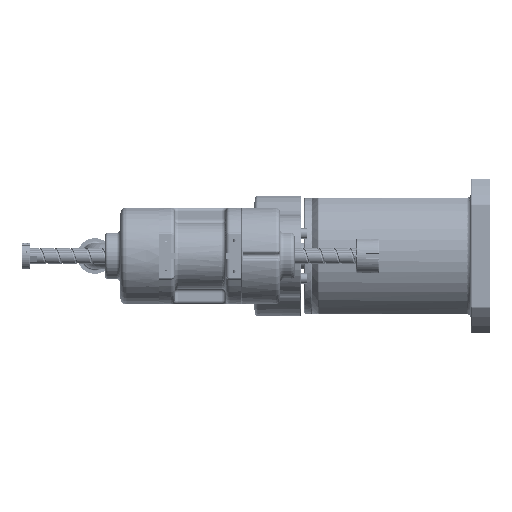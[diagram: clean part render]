
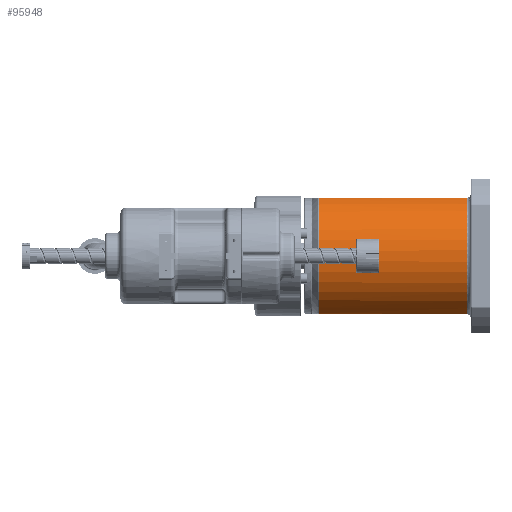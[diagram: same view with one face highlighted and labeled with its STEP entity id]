
A CAD part, left-side view. The second image highlights one B-rep face of the part: STEP entity #95948.
In plain terms, the highlighted cylindrical face has radius 83 mm (diameter 166 mm), a partial arc.
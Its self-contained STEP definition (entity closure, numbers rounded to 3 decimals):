
#2366 = ORIENTED_EDGE ( 'NONE', *, *, #98460, .T. ) ;
#4296 = DIRECTION ( 'NONE',  ( 0., -1., 0. ) ) ;
#4833 = CARTESIAN_POINT ( 'NONE',  ( -37.152, 221.15, -74.221 ) ) ;
#5636 = CARTESIAN_POINT ( 'NONE',  ( -36.048, 30., 74.763 ) ) ;
#9024 = CARTESIAN_POINT ( 'NONE',  ( -36.048, 220.78, 74.763 ) ) ;
#10116 = ORIENTED_EDGE ( 'NONE', *, *, #45721, .T. ) ;
#10740 = CARTESIAN_POINT ( 'NONE',  ( -36.048, 230., -74.763 ) ) ;
#11148 = DIRECTION ( 'NONE',  ( 0., 1., 0. ) ) ;
#15728 = VERTEX_POINT ( 'NONE', #59721 ) ;
#17667 = CARTESIAN_POINT ( 'NONE',  ( -36.048, 220.78, -74.763 ) ) ;
#21763 = VERTEX_POINT ( 'NONE', #79484 ) ;
#26786 = ORIENTED_EDGE ( 'NONE', *, *, #141522, .T. ) ;
#28808 = CARTESIAN_POINT ( 'NONE',  ( 0., 30., 0. ) ) ;
#28847 = CARTESIAN_POINT ( 'NONE',  ( -36.048, 220.78, 74.763 ) ) ;
#31018 = B_SPLINE_CURVE_WITH_KNOTS ( 'NONE', 3,
 ( #46852, #89862, #4833, #113260, #124195, #47314, #58812, #113719 ),
 .UNSPECIFIED., .F., .F.,
 ( 4, 2, 2, 4 ),
 ( 0., 0.001, 0.001, 0.002 ),
 .UNSPECIFIED. ) ;
#35295 = CARTESIAN_POINT ( 'NONE',  ( 0., 221.172, 0. ) ) ;
#38185 = CARTESIAN_POINT ( 'NONE',  ( -37.726, 221.172, 73.931 ) ) ;
#38982 = CARTESIAN_POINT ( 'NONE',  ( -36.302, 220.942, 74.641 ) ) ;
#39926 = CARTESIAN_POINT ( 'NONE',  ( -36.586, 221.035, 74.502 ) ) ;
#45721 = EDGE_CURVE ( 'NONE', #121766, #15728, #102379, .T. ) ;
#46852 = CARTESIAN_POINT ( 'NONE',  ( -37.726, 221.172, -73.931 ) ) ;
#47226 = FACE_OUTER_BOUND ( 'NONE', #51411, .T. ) ;
#47314 = CARTESIAN_POINT ( 'NONE',  ( -36.312, 220.925, -74.636 ) ) ;
#50234 = EDGE_CURVE ( 'NONE', #93105, #21763, #59891, .T. ) ;
#50688 = LINE ( 'NONE', #76543, #115724 ) ;
#51411 = EDGE_LOOP ( 'NONE', ( #26786, #124196, #61681, #63213, #2366, #10116 ) ) ;
#55721 = CYLINDRICAL_SURFACE ( 'NONE', #117914, 83. ) ;
#58812 = CARTESIAN_POINT ( 'NONE',  ( -36.176, 220.862, -74.702 ) ) ;
#59721 = CARTESIAN_POINT ( 'NONE',  ( -37.726, 221.172, -73.931 ) ) ;
#59891 = LINE ( 'NONE', #10740, #78648 ) ;
#61681 = ORIENTED_EDGE ( 'NONE', *, *, #70793, .T. ) ;
#63213 = ORIENTED_EDGE ( 'NONE', *, *, #103666, .T. ) ;
#66119 = CARTESIAN_POINT ( 'NONE',  ( 0., 230., 0. ) ) ;
#70793 = EDGE_CURVE ( 'NONE', #21763, #92016, #107221, .T. ) ;
#72381 = CARTESIAN_POINT ( 'NONE',  ( -37.152, 221.15, 74.221 ) ) ;
#76543 = CARTESIAN_POINT ( 'NONE',  ( -36.048, 230., 74.763 ) ) ;
#77215 = VERTEX_POINT ( 'NONE', #9024 ) ;
#78648 = VECTOR ( 'NONE', #109046, 1000. ) ;
#79484 = CARTESIAN_POINT ( 'NONE',  ( -36.048, 30., -74.763 ) ) ;
#81868 = AXIS2_PLACEMENT_3D ( 'NONE', #28808, #137225, #115388 ) ;
#89862 = CARTESIAN_POINT ( 'NONE',  ( -37.438, 221.172, -74.078 ) ) ;
#91716 = DIRECTION ( 'NONE',  ( -1., 0., 0. ) ) ;
#92016 = VERTEX_POINT ( 'NONE', #5636 ) ;
#93105 = VERTEX_POINT ( 'NONE', #17667 ) ;
#95948 = ADVANCED_FACE ( 'NONE', ( #47226 ), #55721, .T. ) ;
#96810 = AXIS2_PLACEMENT_3D ( 'NONE', #35295, #4296, #91716 ) ;
#98460 = EDGE_CURVE ( 'NONE', #77215, #121766, #140532, .T. ) ;
#102379 = CIRCLE ( 'NONE', #96810, 83. ) ;
#103666 = EDGE_CURVE ( 'NONE', #92016, #77215, #50688, .T. ) ;
#103919 = CARTESIAN_POINT ( 'NONE',  ( -37.438, 221.172, 74.077 ) ) ;
#107221 = CIRCLE ( 'NONE', #81868, 83. ) ;
#109046 = DIRECTION ( 'NONE',  ( 0., -1., 0. ) ) ;
#113260 = CARTESIAN_POINT ( 'NONE',  ( -36.729, 221.064, -74.431 ) ) ;
#113719 = CARTESIAN_POINT ( 'NONE',  ( -36.048, 220.78, -74.763 ) ) ;
#115388 = DIRECTION ( 'NONE',  ( 1., 0., 0. ) ) ;
#115724 = VECTOR ( 'NONE', #11148, 1000. ) ;
#116379 = CARTESIAN_POINT ( 'NONE',  ( -37.726, 221.172, 73.931 ) ) ;
#117914 = AXIS2_PLACEMENT_3D ( 'NONE', #66119, #121538, #132390 ) ;
#121538 = DIRECTION ( 'NONE',  ( 0., 1., 0. ) ) ;
#121766 = VERTEX_POINT ( 'NONE', #38185 ) ;
#124195 = CARTESIAN_POINT ( 'NONE',  ( -36.589, 221.026, -74.5 ) ) ;
#124196 = ORIENTED_EDGE ( 'NONE', *, *, #50234, .T. ) ;
#132390 = DIRECTION ( 'NONE',  ( -1., 0., 0. ) ) ;
#137225 = DIRECTION ( 'NONE',  ( 0., 1., 0. ) ) ;
#140532 = B_SPLINE_CURVE_WITH_KNOTS ( 'NONE', 3,
 ( #28847, #38982, #39926, #72381, #103919, #116379 ),
 .UNSPECIFIED., .F., .F.,
 ( 4, 2, 4 ),
 ( 0., 0.001, 0.002 ),
 .UNSPECIFIED. ) ;
#141522 = EDGE_CURVE ( 'NONE', #15728, #93105, #31018, .T. ) ;
